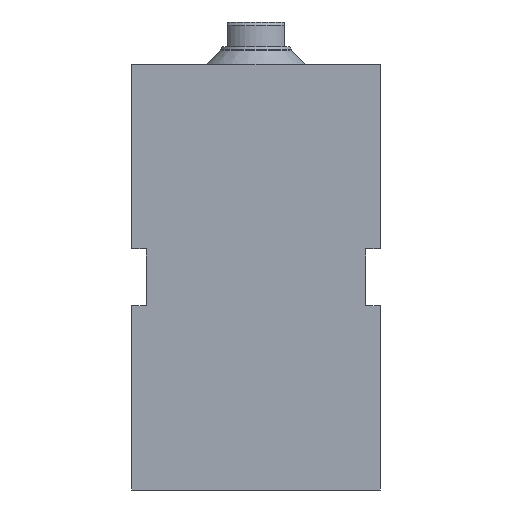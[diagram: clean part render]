
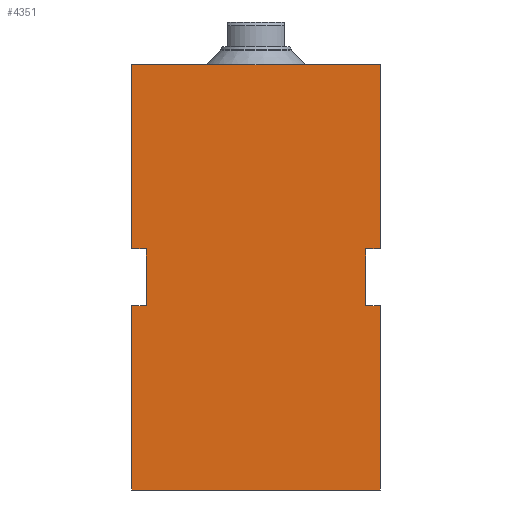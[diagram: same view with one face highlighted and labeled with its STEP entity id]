
A CAD part, front view. The second image highlights one B-rep face of the part: STEP entity #4351.
In plain terms, the highlighted planar face has unit normal (0, -1, 0).
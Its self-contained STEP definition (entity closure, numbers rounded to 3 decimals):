
#34 = LINE ( 'NONE', #4608, #485 ) ;
#40 = EDGE_CURVE ( 'NONE', #5768, #5659, #900, .T. ) ;
#131 = CARTESIAN_POINT ( 'NONE',  ( 15.5, -30., -40. ) ) ;
#158 = ORIENTED_EDGE ( 'NONE', *, *, #938, .F. ) ;
#191 = DIRECTION ( 'NONE',  ( -1., 0., 0. ) ) ;
#196 = DIRECTION ( 'NONE',  ( 1., 0., 0. ) ) ;
#259 = DIRECTION ( 'NONE',  ( 0., 0., 1. ) ) ;
#419 = VECTOR ( 'NONE', #191, 1000. ) ;
#432 = DIRECTION ( 'NONE',  ( 0., 0., 1. ) ) ;
#485 = VECTOR ( 'NONE', #1551, 1000. ) ;
#530 = DIRECTION ( 'NONE',  ( 0., 0., -1. ) ) ;
#589 = ORIENTED_EDGE ( 'NONE', *, *, #40, .T. ) ;
#614 = CARTESIAN_POINT ( 'NONE',  ( 17.5, -30., -66. ) ) ;
#650 = LINE ( 'NONE', #614, #4096 ) ;
#728 = EDGE_CURVE ( 'NONE', #4728, #3977, #650, .T. ) ;
#770 = EDGE_CURVE ( 'NONE', #4856, #3977, #4322, .T. ) ;
#775 = LINE ( 'NONE', #6386, #5592 ) ;
#900 = LINE ( 'NONE', #2959, #4404 ) ;
#937 = CARTESIAN_POINT ( 'NONE',  ( 17.5, -30., -40. ) ) ;
#938 = EDGE_CURVE ( 'NONE', #2299, #4856, #6012, .T. ) ;
#1044 = CARTESIAN_POINT ( 'NONE',  ( -17.5, -30., -66. ) ) ;
#1073 = LINE ( 'NONE', #4062, #3397 ) ;
#1135 = VERTEX_POINT ( 'NONE', #2198 ) ;
#1171 = DIRECTION ( 'NONE',  ( 0., -1., 0. ) ) ;
#1181 = EDGE_CURVE ( 'NONE', #2411, #5768, #775, .T. ) ;
#1256 = DIRECTION ( 'NONE',  ( 1., 0., 0. ) ) ;
#1283 = CARTESIAN_POINT ( 'NONE',  ( 17.5, -30., -6. ) ) ;
#1307 = CARTESIAN_POINT ( 'NONE',  ( -15.5, -30., -40. ) ) ;
#1459 = ORIENTED_EDGE ( 'NONE', *, *, #5971, .F. ) ;
#1499 = EDGE_CURVE ( 'NONE', #4696, #5778, #3893, .T. ) ;
#1551 = DIRECTION ( 'NONE',  ( 0., 0., 1. ) ) ;
#1581 = CARTESIAN_POINT ( 'NONE',  ( -15.5, -30., -32. ) ) ;
#1743 = ORIENTED_EDGE ( 'NONE', *, *, #2330, .F. ) ;
#1869 = EDGE_CURVE ( 'NONE', #1135, #4728, #2098, .T. ) ;
#1933 = CARTESIAN_POINT ( 'NONE',  ( -17.5, -30., -6. ) ) ;
#1961 = ORIENTED_EDGE ( 'NONE', *, *, #728, .T. ) ;
#2098 = LINE ( 'NONE', #3573, #2367 ) ;
#2114 = EDGE_CURVE ( 'NONE', #4261, #5659, #3592, .T. ) ;
#2146 = CARTESIAN_POINT ( 'NONE',  ( 17.5, -30., -32. ) ) ;
#2192 = DIRECTION ( 'NONE',  ( 0., 0., -1. ) ) ;
#2198 = CARTESIAN_POINT ( 'NONE',  ( 15.5, -30., -32. ) ) ;
#2299 = VERTEX_POINT ( 'NONE', #3599 ) ;
#2324 = EDGE_CURVE ( 'NONE', #1135, #4261, #1073, .T. ) ;
#2330 = EDGE_CURVE ( 'NONE', #2411, #5016, #34, .T. ) ;
#2367 = VECTOR ( 'NONE', #4653, 1000. ) ;
#2411 = VERTEX_POINT ( 'NONE', #3800 ) ;
#2425 = VECTOR ( 'NONE', #4054, 1000. ) ;
#2563 = ORIENTED_EDGE ( 'NONE', *, *, #1869, .T. ) ;
#2686 = PLANE ( 'NONE',  #2790 ) ;
#2691 = CARTESIAN_POINT ( 'NONE',  ( 17.5, -30., -66. ) ) ;
#2695 = VECTOR ( 'NONE', #6206, 1000. ) ;
#2723 = CARTESIAN_POINT ( 'NONE',  ( -15.5, -30., -40. ) ) ;
#2790 = AXIS2_PLACEMENT_3D ( 'NONE', #5771, #1171, #2192 ) ;
#2809 = CARTESIAN_POINT ( 'NONE',  ( -17.5, -30., -6. ) ) ;
#2959 = CARTESIAN_POINT ( 'NONE',  ( 17.5, -30., -66. ) ) ;
#3023 = CARTESIAN_POINT ( 'NONE',  ( 15.5, -30., -40. ) ) ;
#3260 = EDGE_LOOP ( 'NONE', ( #1459, #3623, #6628, #1743, #4814, #589, #4335, #6454, #2563, #1961, #3821, #158 ) ) ;
#3358 = VECTOR ( 'NONE', #259, 1000. ) ;
#3397 = VECTOR ( 'NONE', #530, 1000. ) ;
#3573 = CARTESIAN_POINT ( 'NONE',  ( 15.5, -30., -32. ) ) ;
#3592 = LINE ( 'NONE', #3023, #2425 ) ;
#3599 = CARTESIAN_POINT ( 'NONE',  ( -17.5, -30., -32. ) ) ;
#3623 = ORIENTED_EDGE ( 'NONE', *, *, #1499, .F. ) ;
#3800 = CARTESIAN_POINT ( 'NONE',  ( -17.5, -30., -66. ) ) ;
#3821 = ORIENTED_EDGE ( 'NONE', *, *, #770, .F. ) ;
#3893 = LINE ( 'NONE', #1307, #3358 ) ;
#3977 = VERTEX_POINT ( 'NONE', #1283 ) ;
#4054 = DIRECTION ( 'NONE',  ( 1., 0., 0. ) ) ;
#4062 = CARTESIAN_POINT ( 'NONE',  ( 15.5, -30., -32. ) ) ;
#4070 = VECTOR ( 'NONE', #432, 1000. ) ;
#4096 = VECTOR ( 'NONE', #4226, 1000. ) ;
#4177 = LINE ( 'NONE', #4278, #2695 ) ;
#4226 = DIRECTION ( 'NONE',  ( 0., 0., 1. ) ) ;
#4261 = VERTEX_POINT ( 'NONE', #131 ) ;
#4278 = CARTESIAN_POINT ( 'NONE',  ( -15.5, -30., -40. ) ) ;
#4322 = LINE ( 'NONE', #2809, #6113 ) ;
#4335 = ORIENTED_EDGE ( 'NONE', *, *, #2114, .F. ) ;
#4351 = ADVANCED_FACE ( 'NONE', ( #6303 ), #2686, .T. ) ;
#4404 = VECTOR ( 'NONE', #4999, 1000. ) ;
#4524 = CARTESIAN_POINT ( 'NONE',  ( -17.5, -30., -40. ) ) ;
#4608 = CARTESIAN_POINT ( 'NONE',  ( -17.5, -30., -66. ) ) ;
#4653 = DIRECTION ( 'NONE',  ( 1., 0., 0. ) ) ;
#4696 = VERTEX_POINT ( 'NONE', #2723 ) ;
#4728 = VERTEX_POINT ( 'NONE', #2146 ) ;
#4814 = ORIENTED_EDGE ( 'NONE', *, *, #1181, .T. ) ;
#4856 = VERTEX_POINT ( 'NONE', #1933 ) ;
#4899 = LINE ( 'NONE', #5339, #419 ) ;
#4999 = DIRECTION ( 'NONE',  ( 0., 0., 1. ) ) ;
#5016 = VERTEX_POINT ( 'NONE', #4524 ) ;
#5339 = CARTESIAN_POINT ( 'NONE',  ( -15.5, -30., -32. ) ) ;
#5404 = EDGE_CURVE ( 'NONE', #4696, #5016, #4177, .T. ) ;
#5592 = VECTOR ( 'NONE', #196, 1000. ) ;
#5659 = VERTEX_POINT ( 'NONE', #937 ) ;
#5768 = VERTEX_POINT ( 'NONE', #2691 ) ;
#5771 = CARTESIAN_POINT ( 'NONE',  ( -17.5, -30., -66. ) ) ;
#5778 = VERTEX_POINT ( 'NONE', #1581 ) ;
#5971 = EDGE_CURVE ( 'NONE', #5778, #2299, #4899, .T. ) ;
#6012 = LINE ( 'NONE', #1044, #4070 ) ;
#6113 = VECTOR ( 'NONE', #1256, 1000. ) ;
#6206 = DIRECTION ( 'NONE',  ( -1., 0., 0. ) ) ;
#6303 = FACE_OUTER_BOUND ( 'NONE', #3260, .T. ) ;
#6386 = CARTESIAN_POINT ( 'NONE',  ( -17.5, -30., -66. ) ) ;
#6454 = ORIENTED_EDGE ( 'NONE', *, *, #2324, .F. ) ;
#6628 = ORIENTED_EDGE ( 'NONE', *, *, #5404, .T. ) ;
